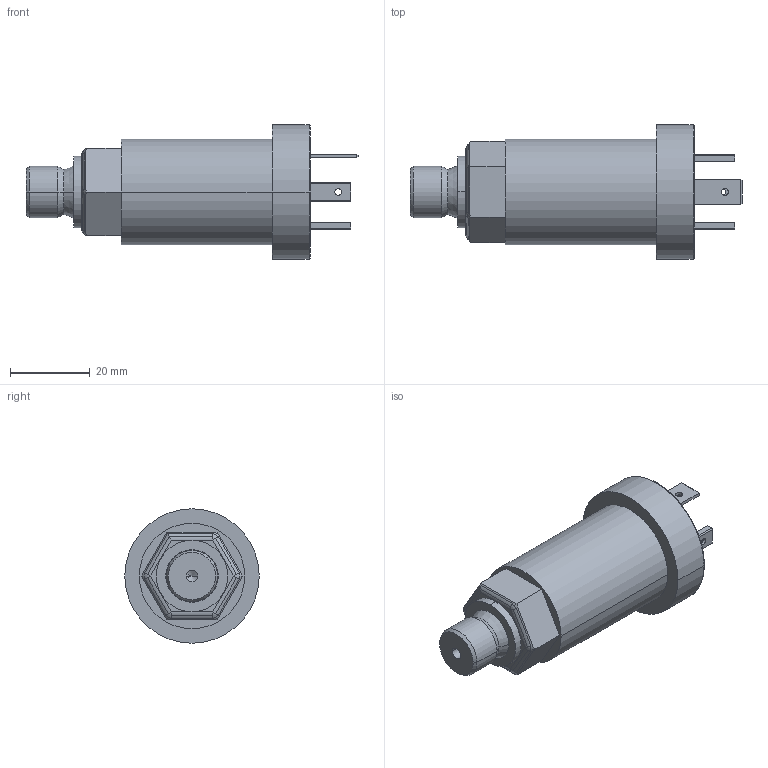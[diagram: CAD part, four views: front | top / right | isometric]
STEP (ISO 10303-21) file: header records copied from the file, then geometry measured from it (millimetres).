
FILE_DESCRIPTION(('STEP AP214'),'1');
FILE_NAME('burster_8227-5020-v134_4fbe87dqm320nqdfo1sjfu05y.stp','2017-04-19T17:33:06',('TraceParts'),('TraceParts S.A.'),'Spatial InterOp 3D',' ',' ');
FILE_SCHEMA(('automotive_design'));
Length unit declared in the file: millimetre
Products named in the file (1): burster_8227-5020-v134_4fbe87dqm320nqdfo1sjfu05y
Bounding box: 83.5 x 33.8 x 33.8 mm (x, y, z)
Volume: 35635.8 mm3; surface area: 8195.6 mm2
Topology: 1 solids, 1 shells, 121 faces, 299 edges, 187 vertices
Faces by surface type: plane 54, cylinder 52, cone 8, sphere 5, torus 2
Entity records: 4570 total; most frequent: DIRECTION 656, CARTESIAN_POINT 606, ORIENTED_EDGE 594, EDGE_CURVE 297, AXIS2_PLACEMENT_3D 237, VERTEX_POINT 187, LINE 182, VECTOR 182
